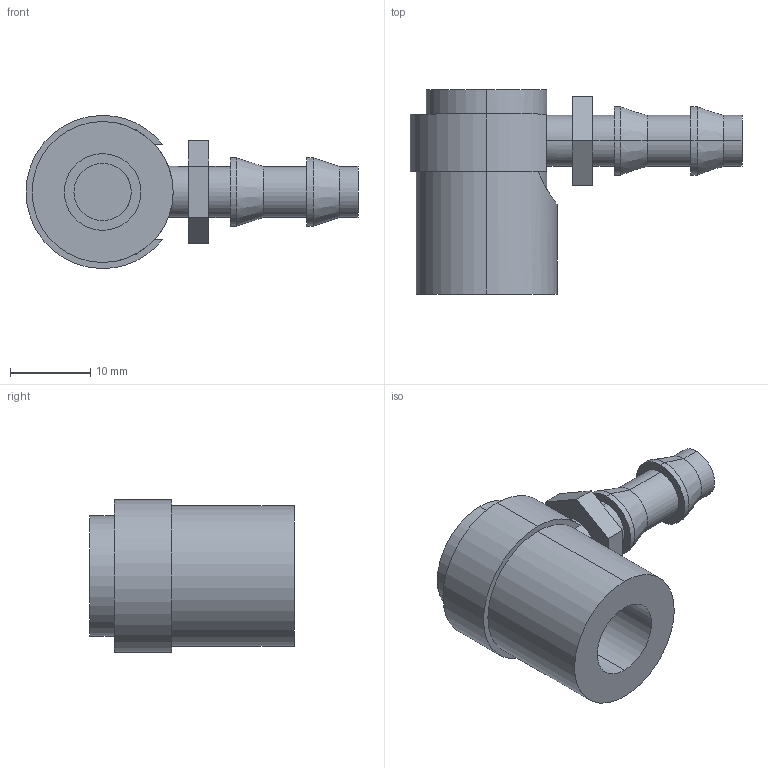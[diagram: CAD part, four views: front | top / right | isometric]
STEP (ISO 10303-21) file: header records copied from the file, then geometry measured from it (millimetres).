
FILE_DESCRIPTION (( 'STEP AP203' ), '1' );
FILE_NAME ('WJ200-25.step', '2022-02-03T10:34:38', ( 'Microsoft Corporation' ), ( 'MS' ), 'SwSTEP 2.0', 'SolidWorks 2019', '' );
FILE_SCHEMA (( 'CONFIG_CONTROL_DESIGN' ));
Length unit declared in the file: inch
Products named in the file (1): WJ200-25
Bounding box: 41.27 x 25.4 x 19.05 mm (x, y, z)
Volume: 5429.4 mm3; surface area: 4126.2 mm2
Topology: 2 solids, 2 shells, 59 faces, 130 edges, 82 vertices
Faces by surface type: cylinder 32, plane 21, cone 6
Entity records: 1897 total; most frequent: CARTESIAN_POINT 464, DIRECTION 304, ORIENTED_EDGE 260, EDGE_CURVE 130, AXIS2_PLACEMENT_3D 120, VERTEX_POINT 82, EDGE_LOOP 70, LINE 64
